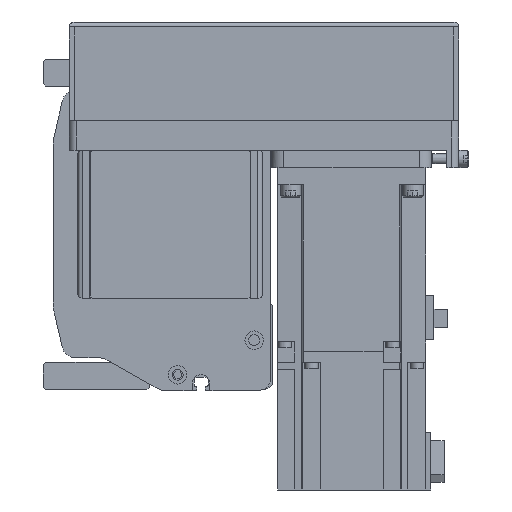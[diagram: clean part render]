
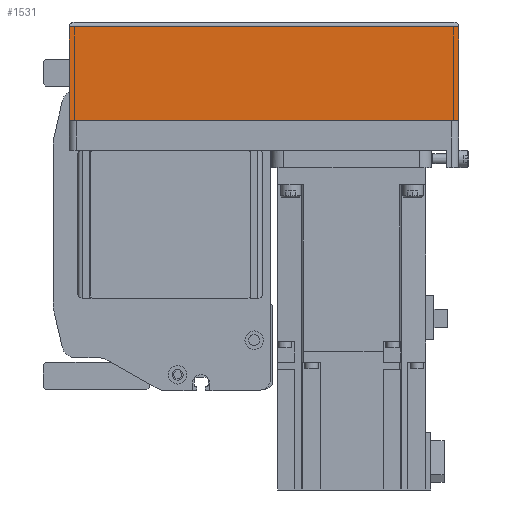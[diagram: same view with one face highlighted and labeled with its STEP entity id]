
A CAD part, left-side view. The second image highlights one B-rep face of the part: STEP entity #1531.
In plain terms, the highlighted planar face has unit normal (-1, 0, 0) as drawn and (0, -1, 0) by its records, which use the part's own axes.
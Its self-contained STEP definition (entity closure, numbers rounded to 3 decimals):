
#1531 = ADVANCED_FACE( '', ( #3846 ), #3847, .T. );
#3846 = FACE_OUTER_BOUND( '', #7164, .T. );
#3847 = PLANE( '', #7165 );
#7164 = EDGE_LOOP( '', ( #11502, #11503, #11504, #11505 ) );
#7165 = AXIS2_PLACEMENT_3D( '', #11506, #11507, #11508 );
#11502 = ORIENTED_EDGE( '', *, *, #19831, .F. );
#11503 = ORIENTED_EDGE( '', *, *, #19821, .F. );
#11504 = ORIENTED_EDGE( '', *, *, #19832, .T. );
#11505 = ORIENTED_EDGE( '', *, *, #19833, .T. );
#11506 = CARTESIAN_POINT( '', ( -158., -39., -12.1 ) );
#11507 = DIRECTION( '', ( 0., -1., 0. ) );
#11508 = DIRECTION( '', ( 0., 0., -1. ) );
#19821 = EDGE_CURVE( '', #24026, #24027, #24028, .T. );
#19831 = EDGE_CURVE( '', #24027, #23953, #24044, .T. );
#19832 = EDGE_CURVE( '', #24026, #24045, #24046, .T. );
#19833 = EDGE_CURVE( '', #24045, #23953, #24047, .T. );
#23953 = VERTEX_POINT( '', #29979 );
#24026 = VERTEX_POINT( '', #30079 );
#24027 = VERTEX_POINT( '', #30080 );
#24028 = LINE( '', #30081, #30082 );
#24044 = LINE( '', #30103, #30104 );
#24045 = VERTEX_POINT( '', #30105 );
#24046 = LINE( '', #30106, #30107 );
#24047 = LINE( '', #30108, #30109 );
#29979 = CARTESIAN_POINT( '', ( 0., -39., -50. ) );
#30079 = CARTESIAN_POINT( '', ( -158., -39., -12.1 ) );
#30080 = CARTESIAN_POINT( '', ( 0., -39., -12.1 ) );
#30081 = CARTESIAN_POINT( '', ( -158., -39., -12.1 ) );
#30082 = VECTOR( '', #36440, 1000. );
#30103 = CARTESIAN_POINT( '', ( 0., -39., -12.1 ) );
#30104 = VECTOR( '', #36452, 1000. );
#30105 = CARTESIAN_POINT( '', ( -158., -39., -50. ) );
#30106 = CARTESIAN_POINT( '', ( -158., -39., -12.1 ) );
#30107 = VECTOR( '', #36453, 1000. );
#30108 = CARTESIAN_POINT( '', ( -158., -39., -50. ) );
#30109 = VECTOR( '', #36454, 1000. );
#36440 = DIRECTION( '', ( 1., 0., 0. ) );
#36452 = DIRECTION( '', ( 0., 0., -1. ) );
#36453 = DIRECTION( '', ( 0., 0., -1. ) );
#36454 = DIRECTION( '', ( 1., 0., 0. ) );
